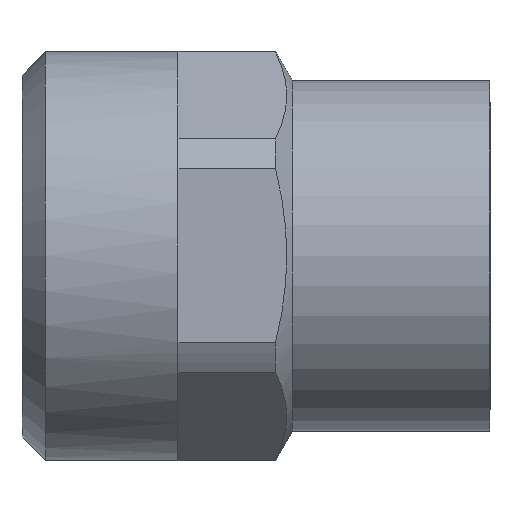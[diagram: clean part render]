
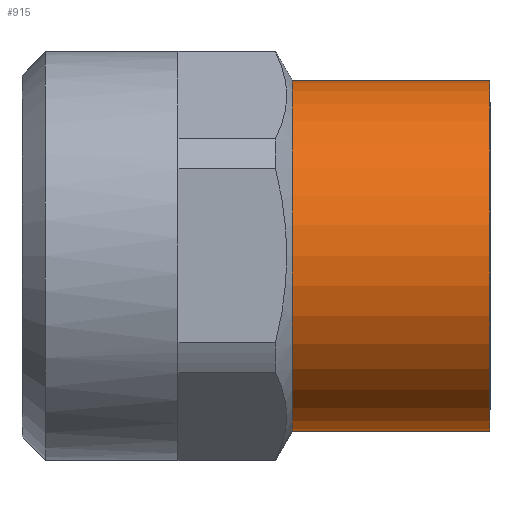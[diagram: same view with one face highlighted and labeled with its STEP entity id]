
A CAD part, top view. The second image highlights one B-rep face of the part: STEP entity #915.
In plain terms, the highlighted cylindrical face has radius 9 mm (diameter 18 mm), a full revolution.
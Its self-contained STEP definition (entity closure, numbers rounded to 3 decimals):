
#884=CARTESIAN_POINT('',(13.866,9.0,0.0));
#885=VERTEX_POINT('',#884);
#886=CARTESIAN_POINT('',(13.866,0.0,0.0));
#887=DIRECTION('',(1.0,0.0,0.0));
#888=DIRECTION('',(0.0,1.0,0.0));
#889=AXIS2_PLACEMENT_3D('',#886,#887,#888);
#890=CIRCLE('',#889,9.0);
#891=EDGE_CURVE('',#885,#885,#890,.T.);
#896=CARTESIAN_POINT('',(18.933,0.0,0.0));
#897=DIRECTION('',(1.0,0.0,0.0));
#898=DIRECTION('',(0.0,1.0,0.0));
#899=AXIS2_PLACEMENT_3D('',#896,#897,#898);
#900=CYLINDRICAL_SURFACE('',#899,9.0);
#901=CARTESIAN_POINT('',(24.0,9.0,0.0));
#902=VERTEX_POINT('',#901);
#903=CARTESIAN_POINT('',(24.0,0.0,0.0));
#904=DIRECTION('',(1.0,0.0,0.0));
#905=DIRECTION('',(0.0,1.0,0.0));
#906=AXIS2_PLACEMENT_3D('',#903,#904,#905);
#907=CIRCLE('',#906,9.0);
#908=EDGE_CURVE('',#902,#902,#907,.T.);
#909=ORIENTED_EDGE('',*,*,#908,.F.);
#910=EDGE_LOOP('',(#909));
#911=FACE_OUTER_BOUND('',#910,.T.);
#912=ORIENTED_EDGE('',*,*,#891,.T.);
#913=EDGE_LOOP('',(#912));
#914=FACE_BOUND('',#913,.T.);
#915=ADVANCED_FACE('',(#911,#914),#900,.T.);
